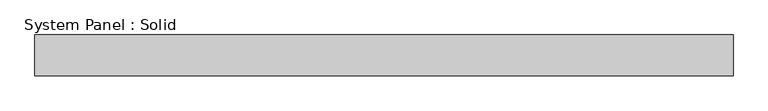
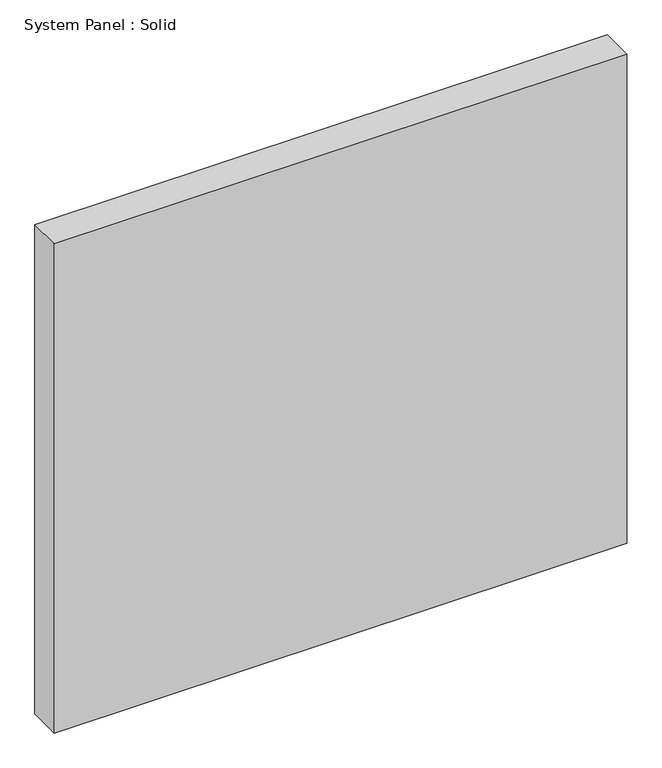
"""IFC4 building model written with IfcOpenShell, lengths in millimetres: plate geometry, System Panel : Solid."""

from ifc_helpers import new_model, si_unit, origin, origin_with_axes, place, context, project, spatial, polyline, outline, extrude, source, transform, mapped, element, save


def system_panel_solid_81bf8050(model_context):
    return source(origin(), model_context, "Body", "SweptSolid", [
        extrude(outline(polyline([(512.5, -10.5), (-512.5, -10.5), (-512.5, 49.5), (512.5, 49.5), (512.5, -10.5)])), origin_with_axes(), (0.0, 0.0, 1.0), 925.0),
    ])


if __name__ == "__main__":
    model = new_model("IFC4")
    model_context = context("Model", 3, world=origin())
    ifc_project = project(units=[si_unit("LENGTHUNIT", "METRE", prefix="MILLI")], contexts=[model_context])
    site = spatial("IfcSite", under=ifc_project)
    building = spatial("IfcBuilding", under=site)
    placement = place(None, origin())
    system_panel_solid_shape = system_panel_solid_81bf8050(model_context)
    element("IfcPlate", 1, ObjectType="System Panel : Solid", at=placement, inside=building, context=model_context, shape_type="MappedRepresentation", body=[
        mapped(system_panel_solid_shape, transform((0.0, 0.0, 0.0), x_axis=(1.0, 0.0, 0.0), y_axis=(0.0, 1.0, 0.0), z_axis=(0.0, 0.0, 1.0))),
    ])
    save(model, "model.ifc")
